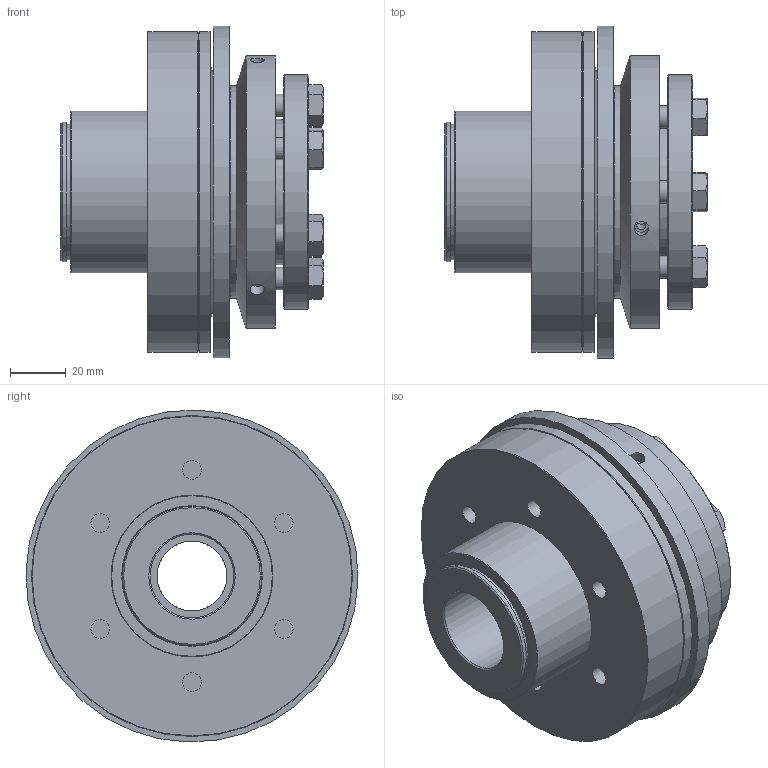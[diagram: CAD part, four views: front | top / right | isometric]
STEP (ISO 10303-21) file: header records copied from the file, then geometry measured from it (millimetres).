
FILE_DESCRIPTION( ( 'Unknown' ), '1' );
FILE_NAME( 'C:/Users/TWalzel/Documents/CAD-Daten/KBK-CI/300/KBK C-I-300.stp', 'Unknown', ( 'Unknown' ), ( 'Unknown' ), 'PSStep 16.0.42', 'Unknown', ' ' );
FILE_SCHEMA( ( 'AUTOMOTIVE_DESIGN { 1 0 10303 214 1 1 1 1 }' ) );
Length unit declared in the file: millimetre
Products named in the file (11): Druckring 300; din_en_24017_m8x30; Konusbuchse 300; Stellring 300; Assem1; Grundkörper C-I-300_1; Flansch-Gleitlager  CK-300
Assembly tree (15 placements, depth 3):
  Assem1
    Grundkörper C-I-300_1
    Flansch-Gleitlager  CK-300
    Konusbuchse 300
      Konusbuchse 300
    Stellring 300
      Stellring 300
    din_en_24017_m8x30  x6
      din_en_24017_m8x30
    Druckring 300
      Druckring 300
Bounding box: 94 x 118.96 x 118.96 mm (x, y, z)
Volume: 479433 mm3; surface area: 139179 mm2
Topology: 11 solids, 11 shells, 259 faces, 547 edges, 347 vertices
Faces by surface type: plane 113, cone 74, cylinder 64, torus 8
Full cylindrical faces by diameter (mm): 3.242 x3, 5.2 x3, 6.647 x21, 8 x6, 8.5 x6, 11.63 x6, 25 x2, 30 x1, 48.5 x1, 50 x3, 52 x1, 58 x1, 76 x3, 84 x1, 90 x1, 98 x1, 98.5 x1, 115 x2, 119 x1
Entity records: 5330 total; most frequent: CARTESIAN_POINT 985, DIRECTION 682, ORIENTED_EDGE 432, AXIS2_PLACEMENT_3D 323, EDGE_LOOP 284, EDGE_CURVE 216, FACE_OUTER_BOUND 206, VERTEX_POINT 180
